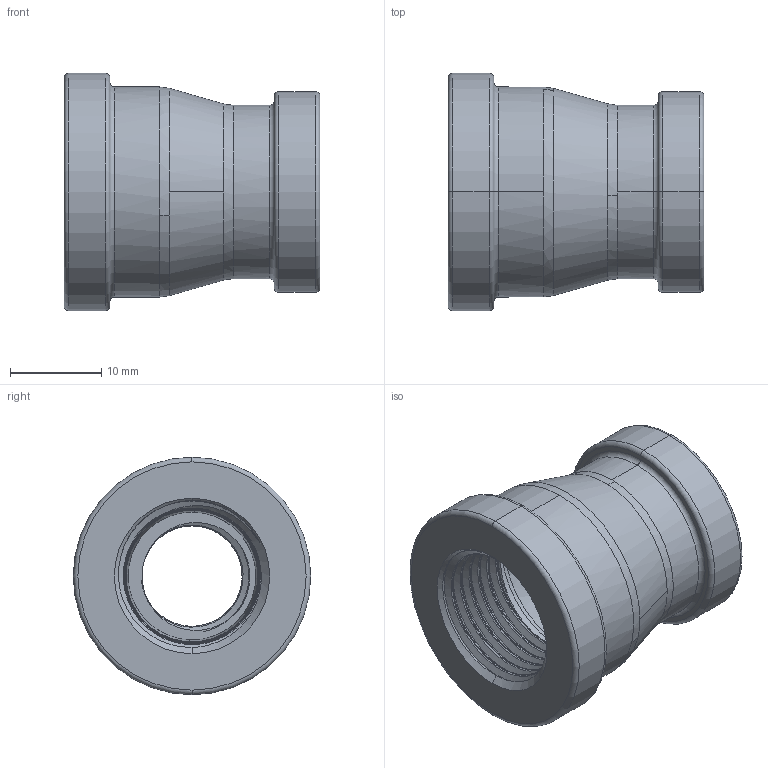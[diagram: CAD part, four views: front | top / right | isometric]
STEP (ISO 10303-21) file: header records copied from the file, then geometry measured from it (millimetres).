
FILE_DESCRIPTION (( 'STEP AP214' ), '1' );
FILE_NAME ('Different-diameter-socket-band-10Ax8A.STEP', '2022-03-16T07:16:40', ( 'ASIS User' ), ( 'ASIS User' ), 'SwSTEP 2.0', 'SolidWorks 2021', '' );
FILE_SCHEMA (( 'AUTOMOTIVE_DESIGN' ));
Length unit declared in the file: millimetre
Products named in the file (1): Different-diameter-socket-band-10Ax8A
Bounding box: 28 x 26 x 26 mm (x, y, z)
Volume: 6054.8 mm3; surface area: 4562.2 mm2
Topology: 1 solids, 1 shells, 83 faces, 401 edges, 324 vertices
Faces by surface type: cone 31, bspline 22, torus 12, cylinder 12, plane 6
Entity records: 13186 total; most frequent: CARTESIAN_POINT 10448, ORIENTED_EDGE 802, EDGE_CURVE 401, VERTEX_POINT 324, B_SPLINE_CURVE_WITH_KNOTS 302, DIRECTION 281, AXIS2_PLACEMENT_3D 120, EDGE_LOOP 89
